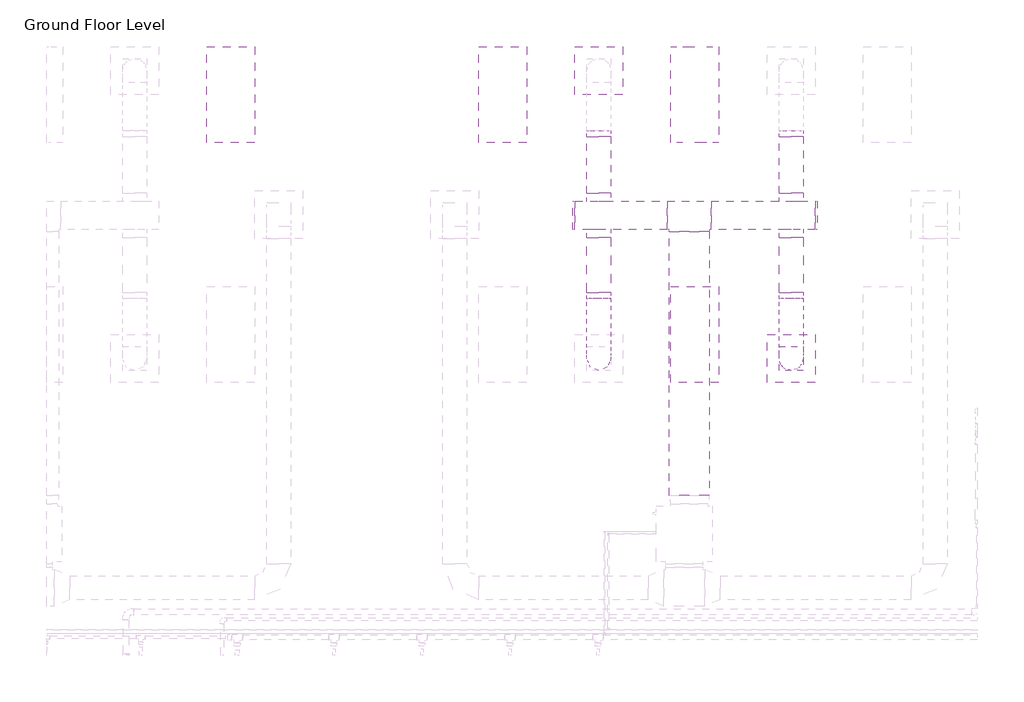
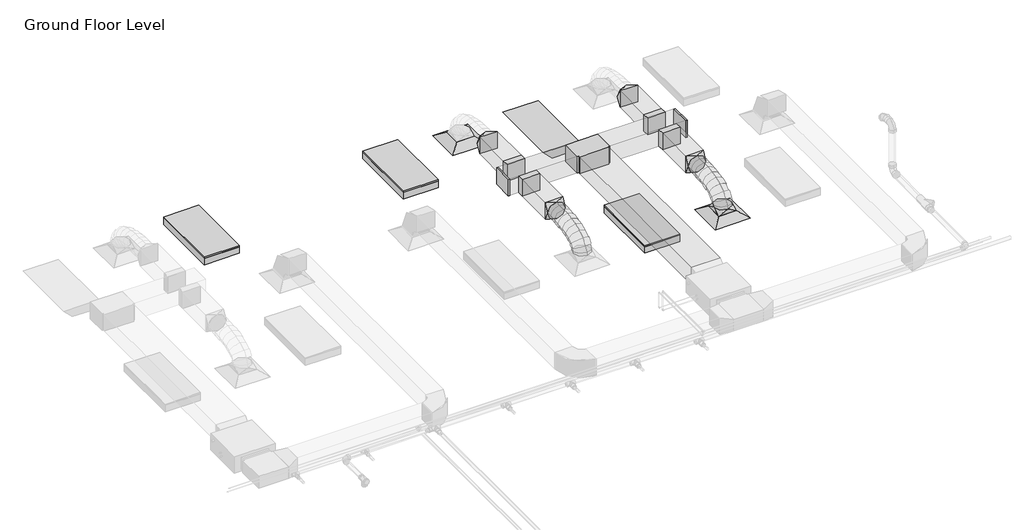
# One storey, part 56 of 74: 12 duct fittings, 9 duct segments, 4 light fixtures, 2 air terminals.
"""IFC4 building model written with IfcOpenShell, lengths in millimetres."""

from ifc_helpers import new_model, si_unit, frame, origin, place, context, project, spatial, polyline, circle_curve, ellipse_curve, outline, extrude, transform, mapped, element, save
from ifc_brep_helpers import plane_surface, cylinder_surface, advanced_brep
from components import m_return_diffuser_600_x_600_face_300_x_300_connection_ff221211, m_rectangular_endcap_standard_eed78c44, m_rectangular_takeoff_standard_cb0ccb98, m_rectangular_takeoff_standard_2be5eba1, m_rectangular_tee_standard_9fc1ddf1, m_rectangular_to_round_transition_angle_45_degree_641efff0, m_emergency_recessed_lighting_fixture_600x1200_277_5b10b25d, m_troffer_light_parabolic_rectangular1_0600x1200mm_4_lamp_86473d4a

model = new_model("IFC4")

# Units and contexts
model_context = context("Model", 3, world=origin())
ifc_project = project(units=[si_unit("LENGTHUNIT", "METRE", prefix="MILLI")], contexts=[model_context])

# Site, building, storey
site = spatial("IfcSite", under=ifc_project)
building = spatial("IfcBuilding", under=site)
storey = spatial("IfcBuildingStorey", under=building, Name="Ground Floor Level", Elevation=900.0)

# Air terminals
placement = place(None, origin())
m_return_diffuser_600_x_600_face_300_x_300_connection_shape = m_return_diffuser_600_x_600_face_300_x_300_connection_ff221211(model_context)
element("IfcAirTerminal", 1, ObjectType="M_Supply Diffuser : 600 x 600 Face 300 x 300 Connection", at=placement, inside=storey, context=model_context, shape_type="MappedRepresentation", body=[
    mapped(m_return_diffuser_600_x_600_face_300_x_300_connection_shape, transform((-10937.2327605, 20535.2153534, 3650.0), x_axis=(1.0, 0.0, 0.0), y_axis=(0.0, 1.0, 0.0), z_axis=(0.0, 0.0, 1.0))),
])
element("IfcAirTerminal", 2, ObjectType="M_Supply Diffuser : 600 x 600 Face 300 x 300 Connection", at=placement, inside=storey, context=model_context, shape_type="MappedRepresentation", body=[
    mapped(m_return_diffuser_600_x_600_face_300_x_300_connection_shape, transform((-8537.2327605, 16935.2153534, 3650.0), x_axis=(1.0, 0.0, 0.0), y_axis=(0.0, 1.0, 0.0), z_axis=(0.0, 0.0, 1.0))),
])

# Duct fittings
m_rectangular_endcap_standard_shape = m_rectangular_endcap_standard_eed78c44(model_context)
element("IfcDuctFitting", 3, ObjectType="M_Rectangular Endcap : Standard", at=placement, inside=storey, context=model_context, shape_type="MappedRepresentation", body=[
    mapped(m_rectangular_endcap_standard_shape, transform((-8233.7327999, 18724.6783949, 4099.998205), x_axis=(0.9999999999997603, 0.0, -6.924715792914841e-07), y_axis=(0.0, 1.0000000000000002, 0.0), z_axis=(6.924715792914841e-07, 0.0, 0.9999999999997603))),
])
element("IfcDuctFitting", 4, ObjectType="M_Rectangular Endcap : Standard", at=placement, inside=storey, context=model_context, shape_type="MappedRepresentation", body=[
    mapped(m_rectangular_endcap_standard_shape, transform((-11237.2326293, 18724.6783949, 4099.9983101), x_axis=(-0.9999999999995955, 0.0, -8.994654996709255e-07), y_axis=(0.0, -1.0000000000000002, 0.0), z_axis=(-8.994654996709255e-07, 0.0, 0.9999999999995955))),
])
m_rectangular_takeoff_standard_shape = m_rectangular_takeoff_standard_cb0ccb98(model_context)
element("IfcDuctFitting", 5, ObjectType="M_Rectangular Takeoff : Standard", at=placement, inside=storey, context=model_context, shape_type="MappedRepresentation", body=[
    mapped(m_rectangular_takeoff_standard_shape, transform((-8537.2327605, 18899.6783949, 4099.9984152), x_axis=(0.0, 1.0, 0.0), y_axis=(1.0, 0.0, 0.0), z_axis=(0.0, 0.0, -1.0))),
])
element("IfcDuctFitting", 6, ObjectType="M_Rectangular Takeoff : Standard", at=placement, inside=storey, context=model_context, shape_type="MappedRepresentation", body=[
    mapped(m_rectangular_takeoff_standard_shape, transform((-10937.2327605, 18549.6783949, 4099.9985799), x_axis=(0.0, -1.0, 0.0), y_axis=(-1.0, 0.0, 0.0), z_axis=(0.0, 0.0, -1.0))),
])
m_rectangular_takeoff_standard_2_shape = m_rectangular_takeoff_standard_2be5eba1(model_context)
element("IfcDuctFitting", 7, ObjectType="M_Rectangular Takeoff : Standard", at=placement, inside=storey, context=model_context, shape_type="MappedRepresentation", body=[
    mapped(m_rectangular_takeoff_standard_2_shape, transform((-10937.2327605, 18899.6783949, 4099.9985799), x_axis=(0.0, 1.0, 0.0), y_axis=(1.0, 0.0, 0.0), z_axis=(0.0, 0.0, -1.0))),
])
element("IfcDuctFitting", 8, ObjectType="M_Rectangular Takeoff : Standard", at=placement, inside=storey, context=model_context, shape_type="MappedRepresentation", body=[
    mapped(m_rectangular_takeoff_standard_2_shape, transform((-8537.2327605, 18549.6783949, 4099.9984152), x_axis=(0.0, -1.0, 0.0), y_axis=(-1.0, 0.0, 0.0), z_axis=(0.0, 0.0, -1.0))),
])
m_rectangular_tee_standard_shape = m_rectangular_tee_standard_9fc1ddf1(model_context)
element("IfcDuctFitting", 9, ObjectType="M_Rectangular Tee : Standard", at=placement, inside=storey, context=model_context, shape_type="MappedRepresentation", body=[
    mapped(m_rectangular_tee_standard_shape, transform((-9808.7327605, 18724.6783949, 4099.9992264), x_axis=(0.999999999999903, 0.0, -4.406637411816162e-07), y_axis=(-1.704451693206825e-12, 0.9999999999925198, -3.867919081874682e-06), z_axis=(4.406637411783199e-07, 3.867919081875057e-06, 0.9999999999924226))),
])
m_rectangular_to_round_transition_angle_45_degree_shape = m_rectangular_to_round_transition_angle_45_degree_641efff0(model_context)
element("IfcDuctFitting", 10, ObjectType="M_Rectangular to Round Transition - Angle : 45 Degree", at=placement, inside=storey, context=model_context, shape_type="MappedRepresentation", body=[
    mapped(m_rectangular_to_round_transition_angle_45_degree_shape, transform((-10937.2327605, 19707.878002, 4099.9985799), x_axis=(0.0, 1.0, 0.0), y_axis=(-1.0, 0.0, 0.0), z_axis=(0.0, 0.0, 1.0))),
])
element("IfcDuctFitting", 11, ObjectType="M_Rectangular to Round Transition - Angle : 45 Degree", at=placement, inside=storey, context=model_context, shape_type="MappedRepresentation", body=[
    mapped(m_rectangular_to_round_transition_angle_45_degree_shape, transform((-8537.2327605, 19707.8778373, 4099.9984152), x_axis=(0.0, 1.0, 0.0), y_axis=(-1.0, 0.0, 0.0), z_axis=(0.0, 0.0, 1.0))),
])
element("IfcDuctFitting", 12, ObjectType="M_Rectangular to Round Transition - Angle : 45 Degree", at=placement, inside=storey, context=model_context, shape_type="MappedRepresentation", body=[
    mapped(m_rectangular_to_round_transition_angle_45_degree_shape, transform((-10937.2327605, 17762.5527048, 4099.9985799), x_axis=(0.0, -1.0, 0.0), y_axis=(1.0, 0.0, 0.0), z_axis=(0.0, 0.0, 1.0))),
])
element("IfcDuctFitting", 13, ObjectType="M_Rectangular to Round Transition - Angle : 45 Degree", at=placement, inside=storey, context=model_context, shape_type="MappedRepresentation", body=[
    mapped(m_rectangular_to_round_transition_angle_45_degree_shape, transform((-8537.2327605, 16935.2153534, 3751.6), x_axis=(0.0, 0.0, 1.0), y_axis=(-1.0, 0.0, 0.0), z_axis=(0.0, -1.0, 0.0))),
])
element("IfcDuctFitting", 14, ObjectType="M_Rectangular to Round Transition - Angle : 45 Degree", at=placement, inside=storey, context=model_context, shape_type="MappedRepresentation", body=[
    mapped(m_rectangular_to_round_transition_angle_45_degree_shape, transform((-8537.2327605, 17762.5528695, 4099.9984152), x_axis=(0.0, -1.0, 0.0), y_axis=(1.0, 0.0, 0.0), z_axis=(0.0, 0.0, 1.0))),
])

# Duct segments
element("IfcDuctSegment", 15, ObjectType="Flex - Round", at=placement, inside=storey, context=model_context, shape_type="AdvancedBrep", body=[
    advanced_brep(
    [(-10787.2327605, 16935.2153534, 3826.6), (-10937.2327605, 16785.2153534, 3826.6), (-11087.2327605, 16935.2153534, 3826.6), (-10937.2327605, 17085.2153534, 3826.6), (-10787.2327605, 16935.2153534, 3857.9377711), (-10937.2327605, 16785.2153534, 3883.5810662), (-11087.2327605, 16935.2153534, 3857.9377711), (-10937.2327605, 17085.2153534, 3832.2944759), (-10787.2327605, 16952.2313253, 3906.2505987), (-10937.2327605, 16818.4934358, 3978.0663103), (-11087.2327605, 16952.2313253, 3906.2505987), (-10937.2327605, 17085.9692148, 3834.4348871), (-10787.2327605, 16999.4153129, 3968.7112481), (-10937.2327605, 16895.2096567, 4079.620783), (-11087.2327605, 16999.4153129, 3968.7112481), (-10937.2327605, 17103.620969, 3857.8017132), (-10787.2327605, 17070.9714237, 4016.0698216), (-10937.2327605, 17002.0377511, 4150.3237055), (-11087.2327605, 17070.9714237, 4016.0698216), (-10937.2327605, 17139.9050963, 3881.8159377), (-10787.2327605, 17161.1037654, 4050.4141926), (-10937.2327605, 17117.5434209, 4194.3364261), (-11087.2327605, 17161.1037654, 4050.4141926), (-10937.2327605, 17204.6641099, 3906.491959), (-10787.2327605, 17264.0164456, 4073.8322345), (-10937.2327605, 17237.4559185, 4221.6228196), (-11087.2327605, 17264.0164456, 4073.8322345), (-10937.2327605, 17290.5769728, 3926.0416493), (-10787.2327605, 17373.9135721, 4088.4118207), (-10937.2327605, 17358.7630147, 4237.7161183), (-11087.2327605, 17373.9135721, 4088.4118207), (-10937.2327605, 17389.0641294, 3939.1075232), (-10787.2327605, 17484.9992523, 4096.2408248), (-10937.2327605, 17477.4941925, 4246.0839553), (-11087.2327605, 17484.9992523, 4096.2408248), (-10937.2327605, 17492.5043121, 3946.3976942), (-10787.2327605, 17591.477594, 4099.40712), (-10937.2327605, 17588.7862586, 4249.393394), (-11087.2327605, 17591.477594, 4099.40712), (-10937.2327605, 17594.1689294, 3949.4208461), (-10787.2327605, 17687.5527048, 4099.9985799), (-10937.2327605, 17688.4761208, 3950.0014223), (-11087.2327605, 17687.5527048, 4099.9985799), (-10937.2327605, 17686.6292887, 4249.9957376)],
    [
        (0, 1, circle_curve(frame((-10937.2327605, 16935.2153534, 3826.6), z_axis=(0.0, 0.0, -1.0), x_axis=(1.0, 0.0, 0.0)), 150.0)),
        (1, 2, circle_curve(frame((-10937.2327605, 16935.2153534, 3826.6), z_axis=(0.0, 0.0, -1.0), x_axis=(1.0, 0.0, 0.0)), 150.0)),
        (2, 3, circle_curve(frame((-10937.2327605, 16935.2153534, 3826.6), z_axis=(0.0, 0.0, -1.0), x_axis=(1.0, 0.0, 0.0)), 150.0)),
        (3, 0, circle_curve(frame((-10937.2327605, 16935.2153534, 3826.6), z_axis=(0.0, 0.0, -1.0), x_axis=(1.0, 0.0, 0.0)), 150.0)),
        (0, 4),
        (4, 5, ellipse_curve(frame((-10937.2327605, 16935.2153534, 3857.9377711), z_axis=(0.0, -0.1685106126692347, -0.9856998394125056), x_axis=(0.0, 0.9856998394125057, -0.16851061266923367)), 152.1761433, 150.0)),
        (5, 1),
        (5, 6, ellipse_curve(frame((-10937.2327605, 16935.2153534, 3857.9377711), z_axis=(0.0, -0.1685106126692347, -0.9856998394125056), x_axis=(0.0, 0.9856998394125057, -0.16851061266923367)), 152.1761433, 150.0)),
        (6, 2),
        (6, 7, ellipse_curve(frame((-10937.2327605, 16935.2153534, 3857.9377711), z_axis=(0.0, -0.1685106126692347, -0.9856998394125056), x_axis=(0.0, 0.9856998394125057, -0.16851061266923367)), 152.1761433, 150.0)),
        (7, 3),
        (7, 4, ellipse_curve(frame((-10937.2327605, 16935.2153534, 3857.9377711), z_axis=(0.0, -0.1685106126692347, -0.9856998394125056), x_axis=(0.0, 0.9856998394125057, -0.16851061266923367)), 152.1761433, 150.0)),
        (4, 8),
        (8, 9, ellipse_curve(frame((-10937.2327605, 16952.2313253, 3906.2505987), z_axis=(0.0, -0.4730934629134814, -0.8810122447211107), x_axis=(0.0, 0.8810122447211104, -0.473093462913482)), 151.8002619, 150.0)),
        (9, 5),
        (9, 10, ellipse_curve(frame((-10937.2327605, 16952.2313253, 3906.2505987), z_axis=(0.0, -0.4730934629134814, -0.8810122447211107), x_axis=(0.0, 0.8810122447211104, -0.473093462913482)), 151.8002619, 150.0)),
        (10, 6),
        (10, 11, ellipse_curve(frame((-10937.2327605, 16952.2313253, 3906.2505987), z_axis=(0.0, -0.4730934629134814, -0.8810122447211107), x_axis=(0.0, 0.8810122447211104, -0.473093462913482)), 151.8002619, 150.0)),
        (11, 7),
        (11, 8, ellipse_curve(frame((-10937.2327605, 16952.2313253, 3906.2505987), z_axis=(0.0, -0.4730934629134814, -0.8810122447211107), x_axis=(0.0, 0.8810122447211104, -0.473093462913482)), 151.8002619, 150.0)),
        (8, 12),
        (12, 13, ellipse_curve(frame((-10937.2327605, 16999.4153129, 3968.7112481), z_axis=(0.0, -0.728789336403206, -0.6847379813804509), x_axis=(0.0, 0.6847379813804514, -0.7287893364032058)), 152.183257, 150.0)),
        (13, 9),
        (13, 14, ellipse_curve(frame((-10937.2327605, 16999.4153129, 3968.7112481), z_axis=(0.0, -0.728789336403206, -0.6847379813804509), x_axis=(0.0, 0.6847379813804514, -0.7287893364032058)), 152.183257, 150.0)),
        (14, 10),
        (14, 15, ellipse_curve(frame((-10937.2327605, 16999.4153129, 3968.7112481), z_axis=(0.0, -0.728789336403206, -0.6847379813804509), x_axis=(0.0, 0.6847379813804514, -0.7287893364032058)), 152.183257, 150.0)),
        (15, 11),
        (15, 12, ellipse_curve(frame((-10937.2327605, 16999.4153129, 3968.7112481), z_axis=(0.0, -0.728789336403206, -0.6847379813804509), x_axis=(0.0, 0.6847379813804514, -0.7287893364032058)), 152.183257, 150.0)),
        (12, 16),
        (16, 17, ellipse_curve(frame((-10937.2327605, 17070.9714237, 4016.0698216), z_axis=(0.0, -0.8895872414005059, -0.45676530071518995), x_axis=(0.0, 0.4567653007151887, -0.8895872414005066)), 150.9170519, 150.0)),
        (17, 13),
        (17, 18, ellipse_curve(frame((-10937.2327605, 17070.9714237, 4016.0698216), z_axis=(0.0, -0.8895872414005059, -0.45676530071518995), x_axis=(0.0, 0.4567653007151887, -0.8895872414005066)), 150.9170519, 150.0)),
        (18, 14),
        (18, 19, ellipse_curve(frame((-10937.2327605, 17070.9714237, 4016.0698216), z_axis=(0.0, -0.8895872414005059, -0.45676530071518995), x_axis=(0.0, 0.4567653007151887, -0.8895872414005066)), 150.9170519, 150.0)),
        (19, 15),
        (19, 16, ellipse_curve(frame((-10937.2327605, 17070.9714237, 4016.0698216), z_axis=(0.0, -0.8895872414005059, -0.45676530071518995), x_axis=(0.0, 0.4567653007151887, -0.8895872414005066)), 150.9170519, 150.0)),
        (16, 20),
        (20, 21, ellipse_curve(frame((-10937.2327605, 17161.1037654, 4050.4141926), z_axis=(0.0, -0.9571211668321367, -0.28968788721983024), x_axis=(0.0, 0.2896878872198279, -0.9571211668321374)), 150.3699202, 150.0)),
        (21, 17),
        (21, 22, ellipse_curve(frame((-10937.2327605, 17161.1037654, 4050.4141926), z_axis=(0.0, -0.9571211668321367, -0.28968788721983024), x_axis=(0.0, 0.2896878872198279, -0.9571211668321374)), 150.3699202, 150.0)),
        (22, 18),
        (22, 23, ellipse_curve(frame((-10937.2327605, 17161.1037654, 4050.4141926), z_axis=(0.0, -0.9571211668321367, -0.28968788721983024), x_axis=(0.0, 0.2896878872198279, -0.9571211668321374)), 150.3699202, 150.0)),
        (23, 19),
        (23, 20, ellipse_curve(frame((-10937.2327605, 17161.1037654, 4050.4141926), z_axis=(0.0, -0.9571211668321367, -0.28968788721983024), x_axis=(0.0, 0.2896878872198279, -0.9571211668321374)), 150.3699202, 150.0)),
        (20, 24),
        (24, 25, ellipse_curve(frame((-10937.2327605, 17264.0164456, 4073.8322345), z_axis=(0.0, -0.9842317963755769, -0.17688349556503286), x_axis=(0.0, 0.17688349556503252, -0.9842317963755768)), 150.158312, 150.0)),
        (25, 21),
        (25, 26, ellipse_curve(frame((-10937.2327605, 17264.0164456, 4073.8322345), z_axis=(0.0, -0.9842317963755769, -0.17688349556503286), x_axis=(0.0, 0.17688349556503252, -0.9842317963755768)), 150.158312, 150.0)),
        (26, 22),
        (26, 27, ellipse_curve(frame((-10937.2327605, 17264.0164456, 4073.8322345), z_axis=(0.0, -0.9842317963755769, -0.17688349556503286), x_axis=(0.0, 0.17688349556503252, -0.9842317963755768)), 150.158312, 150.0)),
        (27, 23),
        (27, 24, ellipse_curve(frame((-10937.2327605, 17264.0164456, 4073.8322345), z_axis=(0.0, -0.9842317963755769, -0.17688349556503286), x_axis=(0.0, 0.17688349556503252, -0.9842317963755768)), 150.158312, 150.0)),
        (24, 28),
        (28, 29, ellipse_curve(frame((-10937.2327605, 17373.9135721, 4088.4118207), z_axis=(0.0, -0.9948909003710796, -0.10095591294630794), x_axis=(0.0, 0.10095591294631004, -0.9948909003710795)), 150.0710253, 150.0)),
        (29, 25),
        (29, 30, ellipse_curve(frame((-10937.2327605, 17373.9135721, 4088.4118207), z_axis=(0.0, -0.9948909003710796, -0.10095591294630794), x_axis=(0.0, 0.10095591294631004, -0.9948909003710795)), 150.0710253, 150.0)),
        (30, 26),
        (30, 31, ellipse_curve(frame((-10937.2327605, 17373.9135721, 4088.4118207), z_axis=(0.0, -0.9948909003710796, -0.10095591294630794), x_axis=(0.0, 0.10095591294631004, -0.9948909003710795)), 150.0710253, 150.0)),
        (31, 27),
        (31, 28, ellipse_curve(frame((-10937.2327605, 17373.9135721, 4088.4118207), z_axis=(0.0, -0.9948909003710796, -0.10095591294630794), x_axis=(0.0, 0.10095591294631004, -0.9948909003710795)), 150.0710253, 150.0)),
        (28, 32),
        (32, 33, ellipse_curve(frame((-10937.2327605, 17484.9992523, 4096.2408248), z_axis=(0.0, -0.998748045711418, -0.0500234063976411), x_axis=(0.0, 0.050023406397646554, -0.9987480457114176)), 150.0309624, 150.0)),
        (33, 29),
        (33, 34, ellipse_curve(frame((-10937.2327605, 17484.9992523, 4096.2408248), z_axis=(0.0, -0.998748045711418, -0.0500234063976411), x_axis=(0.0, 0.050023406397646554, -0.9987480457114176)), 150.0309624, 150.0)),
        (34, 30),
        (34, 35, ellipse_curve(frame((-10937.2327605, 17484.9992523, 4096.2408248), z_axis=(0.0, -0.998748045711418, -0.0500234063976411), x_axis=(0.0, 0.050023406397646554, -0.9987480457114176)), 150.0309624, 150.0)),
        (35, 31),
        (35, 32, ellipse_curve(frame((-10937.2327605, 17484.9992523, 4096.2408248), z_axis=(0.0, -0.998748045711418, -0.0500234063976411), x_axis=(0.0, 0.050023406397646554, -0.9987480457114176)), 150.0309624, 150.0)),
        (32, 36),
        (36, 37, ellipse_curve(frame((-10937.2327605, 17591.477594, 4099.40712), z_axis=(0.0, -0.9998390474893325, -0.01794098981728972), x_axis=(0.0, 0.017940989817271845, -0.9998390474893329)), 150.0104185, 150.0)),
        (37, 33),
        (37, 38, ellipse_curve(frame((-10937.2327605, 17591.477594, 4099.40712), z_axis=(0.0, -0.9998390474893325, -0.01794098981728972), x_axis=(0.0, 0.017940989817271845, -0.9998390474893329)), 150.0104185, 150.0)),
        (38, 34),
        (38, 39, ellipse_curve(frame((-10937.2327605, 17591.477594, 4099.40712), z_axis=(0.0, -0.9998390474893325, -0.01794098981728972), x_axis=(0.0, 0.017940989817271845, -0.9998390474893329)), 150.0104185, 150.0)),
        (39, 35),
        (39, 36, ellipse_curve(frame((-10937.2327605, 17591.477594, 4099.40712), z_axis=(0.0, -0.9998390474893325, -0.01794098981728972), x_axis=(0.0, 0.017940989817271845, -0.9998390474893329)), 150.0104185, 150.0)),
        (40, 41, circle_curve(frame((-10937.2327605, 17687.5527048, 4099.9985799), z_axis=(0.0, 0.9999810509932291, 0.00615610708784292), x_axis=(1.0, 0.0, 0.0)), 150.0)),
        (41, 42, circle_curve(frame((-10937.2327605, 17687.5527048, 4099.9985799), z_axis=(0.0, 0.9999810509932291, 0.00615610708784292), x_axis=(1.0, 0.0, 0.0)), 150.0)),
        (42, 43, circle_curve(frame((-10937.2327605, 17687.5527048, 4099.9985799), z_axis=(0.0, 0.9999810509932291, 0.00615610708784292), x_axis=(1.0, 0.0, 0.0)), 150.0)),
        (43, 40, circle_curve(frame((-10937.2327605, 17687.5527048, 4099.9985799), z_axis=(0.0, 0.9999810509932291, 0.00615610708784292), x_axis=(1.0, 0.0, 0.0)), 150.0)),
        (36, 40),
        (43, 37),
        (42, 38),
        (41, 39),
    ],
    [
        plane_surface(frame((-10937.2327605, 16785.2153534, 3826.6), z_axis=(0.0, 0.0, -1.0), x_axis=(1.0, 0.0, 0.0))),
        cylinder_surface(frame((-10937.2327605, 16935.2153534, 3826.6), z_axis=(0.0, 0.0, -1.0), x_axis=(1.0, 0.0, 0.0)), 150.0),
        cylinder_surface(frame((-10937.2327605, 16935.2153534, 3857.9377711), z_axis=(0.0, -0.3322017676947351, -0.9432083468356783), x_axis=(1.0, 0.0, 0.0)), 150.0),
        cylinder_surface(frame((-10937.2327605, 16952.2313253, 3906.2505987), z_axis=(0.0, -0.6027639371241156, -0.7979195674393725), x_axis=(1.0, 0.0, 0.0)), 150.0),
        cylinder_surface(frame((-10937.2327605, 16999.4153129, 3968.7112481), z_axis=(0.0, -0.8339039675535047, -0.551909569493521), x_axis=(1.0, 0.0, 0.0)), 150.0),
        cylinder_surface(frame((-10937.2327605, 17070.9714237, 4016.0698216), z_axis=(0.0, -0.9344593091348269, -0.3560699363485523), x_axis=(1.0, 0.0, 0.0)), 150.0),
        cylinder_surface(frame((-10937.2327605, 17161.1037654, 4050.4141926), z_axis=(0.0, -0.9750738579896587, -0.22188053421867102), x_axis=(1.0, 0.0, 0.0)), 150.0),
        cylinder_surface(frame((-10937.2327605, 17264.0164456, 4073.8322345), z_axis=(0.0, -0.9913143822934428, -0.13151348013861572), x_axis=(1.0, 0.0, 0.0)), 150.0),
        cylinder_surface(frame((-10937.2327605, 17373.9135721, 4088.4118207), z_axis=(0.0, -0.9975256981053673, -0.0703027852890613), x_axis=(1.0, 0.0, 0.0)), 150.0),
        cylinder_surface(frame((-10937.2327605, 17484.9992523, 4096.2408248), z_axis=(0.0, -0.9995581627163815, -0.029723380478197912), x_axis=(1.0, 0.0, 0.0)), 150.0),
        plane_surface(frame((-10937.2327605, 17686.6292887, 4249.9957376), z_axis=(0.0, 0.9999810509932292, 0.006156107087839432), x_axis=(1.0, 0.0, 0.0))),
        cylinder_surface(frame((-10937.2327605, 17591.477594, 4099.40712), z_axis=(0.0, -0.9999810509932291, -0.00615610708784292), x_axis=(1.0, 0.0, 0.0)), 150.0),
    ],
    [
        (0, [[1, 2, 3, 4]]),
        (1, [[-1, 5, 6, 7]]),
        (1, [[-2, -7, 8, 9]]),
        (1, [[-3, -9, 10, 11]]),
        (1, [[-4, -11, 12, -5]]),
        (2, [[-6, 13, 14, 15]]),
        (2, [[-8, -15, 16, 17]]),
        (2, [[-10, -17, 18, 19]]),
        (2, [[-12, -19, 20, -13]]),
        (3, [[-14, 21, 22, 23]]),
        (3, [[-16, -23, 24, 25]]),
        (3, [[-18, -25, 26, 27]]),
        (3, [[-20, -27, 28, -21]]),
        (4, [[-22, 29, 30, 31]]),
        (4, [[-24, -31, 32, 33]]),
        (4, [[-26, -33, 34, 35]]),
        (4, [[-28, -35, 36, -29]]),
        (5, [[-30, 37, 38, 39]]),
        (5, [[-32, -39, 40, 41]]),
        (5, [[-34, -41, 42, 43]]),
        (5, [[-36, -43, 44, -37]]),
        (6, [[-38, 45, 46, 47]]),
        (6, [[-40, -47, 48, 49]]),
        (6, [[-42, -49, 50, 51]]),
        (6, [[-44, -51, 52, -45]]),
        (7, [[-46, 53, 54, 55]]),
        (7, [[-48, -55, 56, 57]]),
        (7, [[-50, -57, 58, 59]]),
        (7, [[-52, -59, 60, -53]]),
        (8, [[-54, 61, 62, 63]]),
        (8, [[-56, -63, 64, 65]]),
        (8, [[-58, -65, 66, 67]]),
        (8, [[-60, -67, 68, -61]]),
        (9, [[-62, 69, 70, 71]]),
        (9, [[-64, -71, 72, 73]]),
        (9, [[-66, -73, 74, 75]]),
        (9, [[-68, -75, 76, -69]]),
        (10, [[77, 78, 79, 80]]),
        (11, [[-70, 81, -80, 82]]),
        (11, [[-72, -82, -79, 83]]),
        (11, [[-74, -83, -78, 84]]),
        (11, [[-76, -84, -77, -81]]),
    ],
),
])
element("IfcDuctSegment", 16, ObjectType="Flex - Round", at=placement, inside=storey, context=model_context, shape_type="AdvancedBrep", body=[
    advanced_brep(
    [(-8387.2327605, 16935.2153534, 3826.6), (-8537.2327605, 16785.2153534, 3826.6), (-8687.2327605, 16935.2153534, 3826.6), (-8537.2327605, 17085.2153534, 3826.6), (-8387.2327605, 16935.2153534, 3857.937778), (-8537.2327605, 16785.2153534, 3883.5810816), (-8687.2327605, 16935.2153534, 3857.937778), (-8537.2327605, 17085.2153534, 3832.2944744), (-8387.2327605, 16952.2313299, 3906.2506017), (-8537.2327605, 16818.4934508, 3978.0663351), (-8687.2327605, 16952.2313299, 3906.2506017), (-8537.2327605, 17085.969209, 3834.4348684), (-8387.2327605, 16999.4153299, 3968.7112406), (-8537.2327605, 16895.2097019, 4079.6208039), (-8687.2327605, 16999.4153299, 3968.7112406), (-8537.2327605, 17103.6209579, 3857.8016772), (-8387.2327605, 17070.9714591, 4016.0697935), (-8537.2327605, 17002.0378309, 4150.3237004), (-8687.2327605, 17070.9714591, 4016.0697935), (-8537.2327605, 17139.9050873, 3881.8158865), (-8387.2327605, 17161.1038233, 4050.4141374), (-8537.2327605, 17117.5435273, 4194.3363855), (-8687.2327605, 17161.1038233, 4050.4141374), (-8537.2327605, 17204.6641192, 3906.4918893), (-8387.2327605, 17264.0165282, 4073.8321493), (-8537.2327605, 17237.4560471, 4221.6227426), (-8687.2327605, 17264.0165282, 4073.8321493), (-8537.2327605, 17290.5770092, 3926.0415559), (-8387.2327605, 17373.9136795, 4088.411706), (-8537.2327605, 17358.7631621, 4237.7160075), (-8687.2327605, 17373.9136795, 4088.411706), (-8537.2327605, 17389.0641968, 3939.1074046), (-8387.2327605, 17484.999383, 4096.2406846), (-8537.2327605, 17477.4943543, 4246.0838166), (-8687.2327605, 17484.999383, 4096.2406846), (-8537.2327605, 17492.5044117, 3946.3975526), (-8387.2327605, 17591.4777444, 4099.406962), (-8537.2327605, 17588.7864273, 4249.3932362), (-8687.2327605, 17591.4777444, 4099.406962), (-8537.2327605, 17594.1690615, 3949.4206879), (-8387.2327605, 17687.5528695, 4099.9984152), (-8537.2327605, 17688.4762749, 3950.0012575), (-8687.2327605, 17687.5528695, 4099.9984152), (-8537.2327605, 17686.6294641, 4249.9955729)],
    [
        (0, 1, circle_curve(frame((-8537.2327605, 16935.2153534, 3826.6), z_axis=(0.0, 0.0, -1.0), x_axis=(1.0, 0.0, 0.0)), 150.0)),
        (1, 2, circle_curve(frame((-8537.2327605, 16935.2153534, 3826.6), z_axis=(0.0, 0.0, -1.0), x_axis=(1.0, 0.0, 0.0)), 150.0)),
        (2, 3, circle_curve(frame((-8537.2327605, 16935.2153534, 3826.6), z_axis=(0.0, 0.0, -1.0), x_axis=(1.0, 0.0, 0.0)), 150.0)),
        (3, 0, circle_curve(frame((-8537.2327605, 16935.2153534, 3826.6), z_axis=(0.0, 0.0, -1.0), x_axis=(1.0, 0.0, 0.0)), 150.0)),
        (0, 4),
        (4, 5, ellipse_curve(frame((-8537.2327605, 16935.2153534, 3857.937778), z_axis=(0.0, -0.16851066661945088, -0.9856998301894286), x_axis=(0.0, 0.9856998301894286, -0.16851066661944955)), 152.1761447, 150.0)),
        (5, 1),
        (5, 6, ellipse_curve(frame((-8537.2327605, 16935.2153534, 3857.937778), z_axis=(0.0, -0.16851066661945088, -0.9856998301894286), x_axis=(0.0, 0.9856998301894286, -0.16851066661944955)), 152.1761447, 150.0)),
        (6, 2),
        (6, 7, ellipse_curve(frame((-8537.2327605, 16935.2153534, 3857.937778), z_axis=(0.0, -0.16851066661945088, -0.9856998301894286), x_axis=(0.0, 0.9856998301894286, -0.16851066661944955)), 152.1761447, 150.0)),
        (7, 3),
        (7, 4, ellipse_curve(frame((-8537.2327605, 16935.2153534, 3857.937778), z_axis=(0.0, -0.16851066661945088, -0.9856998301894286), x_axis=(0.0, 0.9856998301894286, -0.16851066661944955)), 152.1761447, 150.0)),
        (4, 8),
        (8, 9, ellipse_curve(frame((-8537.2327605, 16952.2313299, 3906.2506017), z_axis=(0.0, -0.4730936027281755, -0.8810121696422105), x_axis=(0.0, 0.8810121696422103, -0.4730936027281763)), 151.8002631, 150.0)),
        (9, 5),
        (9, 10, ellipse_curve(frame((-8537.2327605, 16952.2313299, 3906.2506017), z_axis=(0.0, -0.4730936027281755, -0.8810121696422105), x_axis=(0.0, 0.8810121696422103, -0.4730936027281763)), 151.8002631, 150.0)),
        (10, 6),
        (10, 11, ellipse_curve(frame((-8537.2327605, 16952.2313299, 3906.2506017), z_axis=(0.0, -0.4730936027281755, -0.8810121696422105), x_axis=(0.0, 0.8810121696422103, -0.4730936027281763)), 151.8002631, 150.0)),
        (11, 7),
        (11, 8, ellipse_curve(frame((-8537.2327605, 16952.2313299, 3906.2506017), z_axis=(0.0, -0.4730936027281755, -0.8810121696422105), x_axis=(0.0, 0.8810121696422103, -0.4730936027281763)), 151.8002631, 150.0)),
        (8, 12),
        (12, 13, ellipse_curve(frame((-8537.2327605, 16999.4153299, 3968.7112406), z_axis=(0.0, -0.72878951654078, -0.684737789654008), x_axis=(0.0, 0.6847377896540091, -0.7287895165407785)), 152.1832584, 150.0)),
        (13, 9),
        (13, 14, ellipse_curve(frame((-8537.2327605, 16999.4153299, 3968.7112406), z_axis=(0.0, -0.72878951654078, -0.684737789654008), x_axis=(0.0, 0.6847377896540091, -0.7287895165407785)), 152.1832584, 150.0)),
        (14, 10),
        (14, 15, ellipse_curve(frame((-8537.2327605, 16999.4153299, 3968.7112406), z_axis=(0.0, -0.72878951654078, -0.684737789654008), x_axis=(0.0, 0.6847377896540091, -0.7287895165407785)), 152.1832584, 150.0)),
        (15, 11),
        (15, 12, ellipse_curve(frame((-8537.2327605, 16999.4153299, 3968.7112406), z_axis=(0.0, -0.72878951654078, -0.684737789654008), x_axis=(0.0, 0.6847377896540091, -0.7287895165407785)), 152.1832584, 150.0)),
        (12, 16),
        (16, 17, ellipse_curve(frame((-8537.2327605, 17070.9714591, 4016.0697935), z_axis=(0.0, -0.889587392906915, -0.45676500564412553), x_axis=(0.0, 0.45676500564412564, -0.889587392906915)), 150.9170521, 150.0)),
        (17, 13),
        (17, 18, ellipse_curve(frame((-8537.2327605, 17070.9714591, 4016.0697935), z_axis=(0.0, -0.889587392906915, -0.45676500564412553), x_axis=(0.0, 0.45676500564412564, -0.889587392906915)), 150.9170521, 150.0)),
        (18, 14),
        (18, 19, ellipse_curve(frame((-8537.2327605, 17070.9714591, 4016.0697935), z_axis=(0.0, -0.889587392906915, -0.45676500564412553), x_axis=(0.0, 0.45676500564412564, -0.889587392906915)), 150.9170521, 150.0)),
        (19, 15),
        (19, 16, ellipse_curve(frame((-8537.2327605, 17070.9714591, 4016.0697935), z_axis=(0.0, -0.889587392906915, -0.45676500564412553), x_axis=(0.0, 0.45676500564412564, -0.889587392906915)), 150.9170521, 150.0)),
        (16, 20),
        (20, 21, ellipse_curve(frame((-8537.2327605, 17161.1038233, 4050.4141374), z_axis=(0.0, -0.9571212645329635, -0.28968756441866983), x_axis=(0.0, 0.28968756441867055, -0.9571212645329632)), 150.3699202, 150.0)),
        (21, 17),
        (21, 22, ellipse_curve(frame((-8537.2327605, 17161.1038233, 4050.4141374), z_axis=(0.0, -0.9571212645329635, -0.28968756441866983), x_axis=(0.0, 0.28968756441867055, -0.9571212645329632)), 150.3699202, 150.0)),
        (22, 18),
        (22, 23, ellipse_curve(frame((-8537.2327605, 17161.1038233, 4050.4141374), z_axis=(0.0, -0.9571212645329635, -0.28968756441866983), x_axis=(0.0, 0.28968756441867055, -0.9571212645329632)), 150.3699202, 150.0)),
        (23, 19),
        (23, 20, ellipse_curve(frame((-8537.2327605, 17161.1038233, 4050.4141374), z_axis=(0.0, -0.9571212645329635, -0.28968756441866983), x_axis=(0.0, 0.28968756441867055, -0.9571212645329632)), 150.3699202, 150.0)),
        (20, 24),
        (24, 25, ellipse_curve(frame((-8537.2327605, 17264.0165282, 4073.8321493), z_axis=(0.0, -0.9842318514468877, -0.17688318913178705), x_axis=(0.0, 0.17688318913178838, -0.9842318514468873)), 150.1583119, 150.0)),
        (25, 21),
        (25, 26, ellipse_curve(frame((-8537.2327605, 17264.0165282, 4073.8321493), z_axis=(0.0, -0.9842318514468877, -0.17688318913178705), x_axis=(0.0, 0.17688318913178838, -0.9842318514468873)), 150.1583119, 150.0)),
        (26, 22),
        (26, 27, ellipse_curve(frame((-8537.2327605, 17264.0165282, 4073.8321493), z_axis=(0.0, -0.9842318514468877, -0.17688318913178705), x_axis=(0.0, 0.17688318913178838, -0.9842318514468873)), 150.1583119, 150.0)),
        (27, 23),
        (27, 24, ellipse_curve(frame((-8537.2327605, 17264.0165282, 4073.8321493), z_axis=(0.0, -0.9842318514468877, -0.17688318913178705), x_axis=(0.0, 0.17688318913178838, -0.9842318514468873)), 150.1583119, 150.0)),
        (24, 28),
        (28, 29, ellipse_curve(frame((-8537.2327605, 17373.9136795, 4088.411706), z_axis=(0.0, -0.9948909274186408, -0.10095564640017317), x_axis=(0.0, 0.10095564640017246, -0.9948909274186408)), 150.0710252, 150.0)),
        (29, 25),
        (29, 30, ellipse_curve(frame((-8537.2327605, 17373.9136795, 4088.411706), z_axis=(0.0, -0.9948909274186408, -0.10095564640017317), x_axis=(0.0, 0.10095564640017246, -0.9948909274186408)), 150.0710252, 150.0)),
        (30, 26),
        (30, 31, ellipse_curve(frame((-8537.2327605, 17373.9136795, 4088.411706), z_axis=(0.0, -0.9948909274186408, -0.10095564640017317), x_axis=(0.0, 0.10095564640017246, -0.9948909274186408)), 150.0710252, 150.0)),
        (31, 27),
        (31, 28, ellipse_curve(frame((-8537.2327605, 17373.9136795, 4088.411706), z_axis=(0.0, -0.9948909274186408, -0.10095564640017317), x_axis=(0.0, 0.10095564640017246, -0.9948909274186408)), 150.0710252, 150.0)),
        (28, 32),
        (32, 33, ellipse_curve(frame((-8537.2327605, 17484.999383, 4096.2406846), z_axis=(0.0, -0.9987480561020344, -0.050023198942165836), x_axis=(0.0, 0.050023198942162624, -0.9987480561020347)), 150.0309623, 150.0)),
        (33, 29),
        (33, 34, ellipse_curve(frame((-8537.2327605, 17484.999383, 4096.2406846), z_axis=(0.0, -0.9987480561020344, -0.050023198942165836), x_axis=(0.0, 0.050023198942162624, -0.9987480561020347)), 150.0309623, 150.0)),
        (34, 30),
        (34, 35, ellipse_curve(frame((-8537.2327605, 17484.999383, 4096.2406846), z_axis=(0.0, -0.9987480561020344, -0.050023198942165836), x_axis=(0.0, 0.050023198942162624, -0.9987480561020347)), 150.0309623, 150.0)),
        (35, 31),
        (35, 32, ellipse_curve(frame((-8537.2327605, 17484.999383, 4096.2406846), z_axis=(0.0, -0.9987480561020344, -0.050023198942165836), x_axis=(0.0, 0.050023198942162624, -0.9987480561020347)), 150.0309623, 150.0)),
        (32, 36),
        (36, 37, ellipse_curve(frame((-8537.2327605, 17591.4777444, 4099.406962), z_axis=(0.0, -0.99983904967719, -0.017940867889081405), x_axis=(0.0, 0.017940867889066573, -0.9998390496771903)), 150.0104184, 150.0)),
        (37, 33),
        (37, 38, ellipse_curve(frame((-8537.2327605, 17591.4777444, 4099.406962), z_axis=(0.0, -0.99983904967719, -0.017940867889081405), x_axis=(0.0, 0.017940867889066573, -0.9998390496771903)), 150.0104184, 150.0)),
        (38, 34),
        (38, 39, ellipse_curve(frame((-8537.2327605, 17591.4777444, 4099.406962), z_axis=(0.0, -0.99983904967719, -0.017940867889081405), x_axis=(0.0, 0.017940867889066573, -0.9998390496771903)), 150.0104184, 150.0)),
        (39, 35),
        (39, 36, ellipse_curve(frame((-8537.2327605, 17591.4777444, 4099.406962), z_axis=(0.0, -0.99983904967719, -0.017940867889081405), x_axis=(0.0, 0.017940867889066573, -0.9998390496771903)), 150.0104184, 150.0)),
        (40, 41, circle_curve(frame((-8537.2327605, 17687.5528695, 4099.9984152), z_axis=(0.0, 0.9999810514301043, 0.006156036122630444), x_axis=(1.0, 0.0, 0.0)), 150.0)),
        (41, 42, circle_curve(frame((-8537.2327605, 17687.5528695, 4099.9984152), z_axis=(0.0, 0.9999810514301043, 0.006156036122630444), x_axis=(1.0, 0.0, 0.0)), 150.0)),
        (42, 43, circle_curve(frame((-8537.2327605, 17687.5528695, 4099.9984152), z_axis=(0.0, 0.9999810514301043, 0.006156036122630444), x_axis=(1.0, 0.0, 0.0)), 150.0)),
        (43, 40, circle_curve(frame((-8537.2327605, 17687.5528695, 4099.9984152), z_axis=(0.0, 0.9999810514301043, 0.006156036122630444), x_axis=(1.0, 0.0, 0.0)), 150.0)),
        (36, 40),
        (43, 37),
        (42, 38),
        (41, 39),
    ],
    [
        plane_surface(frame((-8537.2327605, 16785.2153534, 3826.6), z_axis=(0.0, 0.0, -1.0), x_axis=(1.0, 0.0, 0.0))),
        cylinder_surface(frame((-8537.2327605, 16935.2153534, 3826.6), z_axis=(0.0, 0.0, -1.0), x_axis=(1.0, 0.0, 0.0)), 150.0),
        cylinder_surface(frame((-8537.2327605, 16935.2153534, 3857.937778), z_axis=(0.0, -0.33220187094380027, -0.9432083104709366), x_axis=(1.0, 0.0, 0.0)), 150.0),
        cylinder_surface(frame((-8537.2327605, 16952.2313299, 3906.2506017), z_axis=(0.0, -0.6027641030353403, -0.7979194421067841), x_axis=(1.0, 0.0, 0.0)), 150.0),
        cylinder_surface(frame((-8537.2327605, 16999.4153299, 3968.7112406), z_axis=(0.0, -0.8339041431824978, -0.5519093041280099), x_axis=(1.0, 0.0, 0.0)), 150.0),
        cylinder_surface(frame((-8537.2327605, 17070.9714591, 4016.0697935), z_axis=(0.0, -0.9344594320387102, -0.3560696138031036), x_axis=(1.0, 0.0, 0.0)), 150.0),
        cylinder_surface(frame((-8537.2327605, 17161.1038233, 4050.4141374), z_axis=(0.0, -0.9750739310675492, -0.22188021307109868), x_axis=(1.0, 0.0, 0.0)), 150.0),
        cylinder_surface(frame((-8537.2327605, 17264.0165282, 4073.8321493), z_axis=(0.0, -0.9913144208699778, -0.13151318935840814), x_axis=(1.0, 0.0, 0.0)), 150.0),
        cylinder_surface(frame((-8537.2327605, 17373.9136795, 4088.411706), z_axis=(0.0, -0.9975257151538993, -0.07030254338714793), x_axis=(1.0, 0.0, 0.0)), 150.0),
        cylinder_surface(frame((-8537.2327605, 17484.999383, 4096.2406846), z_axis=(0.0, -0.9995581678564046, -0.029723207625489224), x_axis=(1.0, 0.0, 0.0)), 150.0),
        plane_surface(frame((-8537.2327605, 17686.6294641, 4249.9955729), z_axis=(0.0, 0.9999810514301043, 0.0061560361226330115), x_axis=(1.0, 0.0, 0.0))),
        cylinder_surface(frame((-8537.2327605, 17591.4777444, 4099.406962), z_axis=(0.0, -0.9999810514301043, -0.006156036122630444), x_axis=(1.0, 0.0, 0.0)), 150.0),
    ],
    [
        (0, [[1, 2, 3, 4]]),
        (1, [[-1, 5, 6, 7]]),
        (1, [[-2, -7, 8, 9]]),
        (1, [[-3, -9, 10, 11]]),
        (1, [[-4, -11, 12, -5]]),
        (2, [[-6, 13, 14, 15]]),
        (2, [[-8, -15, 16, 17]]),
        (2, [[-10, -17, 18, 19]]),
        (2, [[-12, -19, 20, -13]]),
        (3, [[-14, 21, 22, 23]]),
        (3, [[-16, -23, 24, 25]]),
        (3, [[-18, -25, 26, 27]]),
        (3, [[-20, -27, 28, -21]]),
        (4, [[-22, 29, 30, 31]]),
        (4, [[-24, -31, 32, 33]]),
        (4, [[-26, -33, 34, 35]]),
        (4, [[-28, -35, 36, -29]]),
        (5, [[-30, 37, 38, 39]]),
        (5, [[-32, -39, 40, 41]]),
        (5, [[-34, -41, 42, 43]]),
        (5, [[-36, -43, 44, -37]]),
        (6, [[-38, 45, 46, 47]]),
        (6, [[-40, -47, 48, 49]]),
        (6, [[-42, -49, 50, 51]]),
        (6, [[-44, -51, 52, -45]]),
        (7, [[-46, 53, 54, 55]]),
        (7, [[-48, -55, 56, 57]]),
        (7, [[-50, -57, 58, 59]]),
        (7, [[-52, -59, 60, -53]]),
        (8, [[-54, 61, 62, 63]]),
        (8, [[-56, -63, 64, 65]]),
        (8, [[-58, -65, 66, 67]]),
        (8, [[-60, -67, 68, -61]]),
        (9, [[-62, 69, 70, 71]]),
        (9, [[-64, -71, 72, 73]]),
        (9, [[-66, -73, 74, 75]]),
        (9, [[-68, -75, 76, -69]]),
        (10, [[77, 78, 79, 80]]),
        (11, [[-70, 81, -80, 82]]),
        (11, [[-72, -82, -79, 83]]),
        (11, [[-74, -83, -78, 84]]),
        (11, [[-76, -84, -77, -81]]),
    ],
),
])
element("IfcDuctSegment", 17, ObjectType="Radius Elbows / Taps", at=placement, inside=storey, context=model_context, shape_type="SweptSolid", body=[
    extrude(outline(polyline([(-9558.7327605, 15224.0945822), (-10058.7327605, 15224.0945822), (-10058.7327605, 18524.6783949), (-9558.7327605, 18524.6783949), (-9558.7327605, 15224.0945822)])), frame((0.0, 0.0, 3950.0), z_axis=(0.0, 0.0, 1.0), x_axis=(1.0, 0.0, 0.0)), (0.0, 0.0, 1.0), 300.0),
])
element("IfcDuctSegment", 18, ObjectType="Radius Elbows / Taps", at=placement, inside=storey, context=model_context, shape_type="SweptSolid", body=[
    extrude(outline(polyline([(-9533.7327605, 18549.6783949), (-9533.7327605, 18899.6783949), (-8233.7327999, 18899.6783949), (-8233.7327999, 18549.6783949), (-9533.7327605, 18549.6783949)])), frame((0.0, 0.0, 3949.9991052), z_axis=(0.0, 0.0, 1.0), x_axis=(1.0, 0.0, 0.0)), (0.0, 0.0, 1.0), 300.0),
])
element("IfcDuctSegment", 19, ObjectType="Radius Elbows / Taps", at=placement, inside=storey, context=model_context, shape_type="SweptSolid", body=[
    extrude(outline(polyline([(-10083.7327605, 18899.6783949), (-10083.7327605, 18549.6783949), (-11237.2326293, 18549.6783949), (-11237.2326293, 18899.6783949), (-10083.7327605, 18899.6783949)])), frame((0.0, 0.0, 3949.9993476), z_axis=(0.0, 0.0, 1.0), x_axis=(1.0, 0.0, 0.0)), (0.0, 0.0, 1.0), 300.0),
])
element("IfcDuctSegment", 20, ObjectType="Radius Elbows / Taps", at=placement, inside=storey, context=model_context, shape_type="SweptSolid", body=[
    extrude(outline(polyline([(-10787.2327605, 19001.2783949), (-11087.2327605, 19001.2783949), (-11087.2327605, 19707.878002), (-10787.2327605, 19707.878002), (-10787.2327605, 19001.2783949)])), frame((0.0, 0.0, 3949.9985799), z_axis=(0.0, 0.0, 1.0), x_axis=(1.0, 0.0, 0.0)), (0.0, 0.0, 1.0), 300.0),
])
element("IfcDuctSegment", 21, ObjectType="Radius Elbows / Taps", at=placement, inside=storey, context=model_context, shape_type="SweptSolid", body=[
    extrude(outline(polyline([(-8387.2327605, 19001.2783949), (-8687.2327605, 19001.2783949), (-8687.2327605, 19707.8778373), (-8387.2327605, 19707.8778373), (-8387.2327605, 19001.2783949)])), frame((0.0, 0.0, 3949.9984152), z_axis=(0.0, 0.0, 1.0), x_axis=(1.0, 0.0, 0.0)), (0.0, 0.0, 1.0), 300.0),
])
element("IfcDuctSegment", 22, ObjectType="Radius Elbows / Taps", at=placement, inside=storey, context=model_context, shape_type="SweptSolid", body=[
    extrude(outline(polyline([(-8687.2327605, 18448.0783949), (-8387.2327605, 18448.0783949), (-8387.2327605, 17762.5528695), (-8687.2327605, 17762.5528695), (-8687.2327605, 18448.0783949)])), frame((0.0, 0.0, 3949.9984152), z_axis=(0.0, 0.0, 1.0), x_axis=(1.0, 0.0, 0.0)), (0.0, 0.0, 1.0), 300.0),
])
element("IfcDuctSegment", 23, ObjectType="Radius Elbows / Taps", at=placement, inside=storey, context=model_context, shape_type="SweptSolid", body=[
    extrude(outline(polyline([(-11087.2327605, 18448.0783949), (-10787.2327605, 18448.0783949), (-10787.2327605, 17762.5527048), (-11087.2327605, 17762.5527048), (-11087.2327605, 18448.0783949)])), frame((0.0, 0.0, 3949.9985799), z_axis=(0.0, 0.0, 1.0), x_axis=(1.0, 0.0, 0.0)), (0.0, 0.0, 1.0), 300.0),
])

# Light fixtures
m_emergency_recessed_lighting_fixture_600x1200_277_shape = m_emergency_recessed_lighting_fixture_600x1200_277_5b10b25d(model_context)
element("IfcLightFixture", 24, ObjectType="M_Emergency Recessed Lighting Fixture : 600x1200 - 277", at=placement, inside=storey, context=model_context, shape_type="MappedRepresentation", body=[
    mapped(m_emergency_recessed_lighting_fixture_600x1200_277_shape, transform((-10037.2327605, 19635.2153534, 3650.0), x_axis=(0.0, 1.0, 0.0), y_axis=(-1.0, 0.0, 0.0), z_axis=(0.0, 0.0, 1.0))),
])
m_troffer_light_parabolic_rectangular1_0600x1200mm_4_lamp_shape = m_troffer_light_parabolic_rectangular1_0600x1200mm_4_lamp_86473d4a(model_context)
element("IfcLightFixture", 25, ObjectType="M_Troffer Light - Parabolic Rectangular1 : 0600x1200mm(4 Lamp) - 277V 2", at=placement, inside=storey, context=model_context, shape_type="MappedRepresentation", body=[
    mapped(m_troffer_light_parabolic_rectangular1_0600x1200mm_4_lamp_shape, transform((-15596.6986926, 20253.918855, 3650.0), x_axis=(0.0, 1.0, 0.0), y_axis=(-1.0, 0.0, 0.0), z_axis=(0.0, 0.0, 1.0))),
])
element("IfcLightFixture", 26, ObjectType="M_Troffer Light - Parabolic Rectangular1 : 0600x1200mm(4 Lamp) - 277V 2", at=placement, inside=storey, context=model_context, shape_type="MappedRepresentation", body=[
    mapped(m_troffer_light_parabolic_rectangular1_0600x1200mm_4_lamp_shape, transform((-12196.6986926, 20253.918855, 3650.0), x_axis=(0.0, 1.0, 0.0), y_axis=(-1.0, 0.0, 0.0), z_axis=(0.0, 0.0, 1.0))),
])
element("IfcLightFixture", 27, ObjectType="M_Troffer Light - Parabolic Rectangular1 : 0600x1200mm(4 Lamp) - 277V 2", at=placement, inside=storey, context=model_context, shape_type="MappedRepresentation", body=[
    mapped(m_troffer_light_parabolic_rectangular1_0600x1200mm_4_lamp_shape, transform((-9796.6986926, 17253.918855, 3650.0), x_axis=(0.0, 1.0, 0.0), y_axis=(-1.0, 0.0, 0.0), z_axis=(0.0, 0.0, 1.0))),
])

save(model, "model.ifc")
